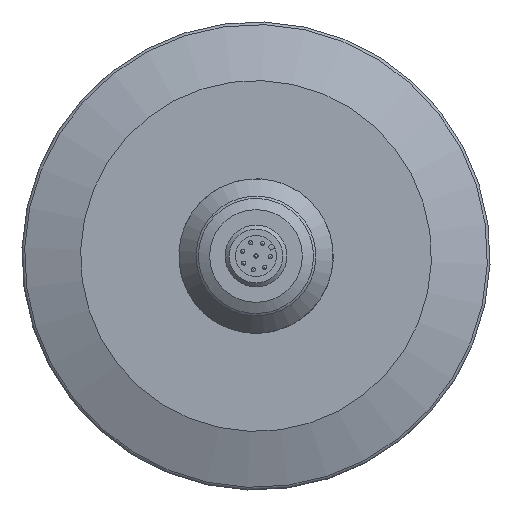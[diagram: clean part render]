
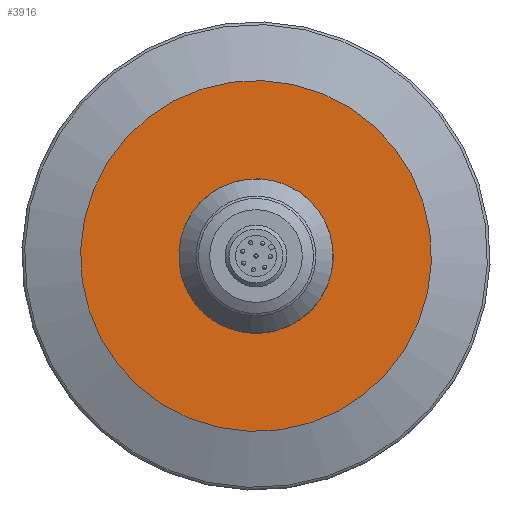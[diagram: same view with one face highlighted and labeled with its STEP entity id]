
A CAD part, front view. The second image highlights one B-rep face of the part: STEP entity #3916.
In plain terms, the highlighted planar face has unit normal (0, -1, 0).
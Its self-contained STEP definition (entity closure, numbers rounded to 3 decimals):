
#571=PLANE('',#4084);
#1327=ORIENTED_EDGE('',*,*,#1701,.F.);
#1328=ORIENTED_EDGE('',*,*,#1713,.F.);
#1701=EDGE_CURVE('',#1965,#1965,#2033,.T.);
#1713=EDGE_CURVE('',#1977,#1977,#2045,.T.);
#1965=VERTEX_POINT('',#9061);
#1977=VERTEX_POINT('',#9096);
#2033=CIRCLE('',#4060,15.);
#2045=CIRCLE('',#4083,34.098);
#2267=EDGE_LOOP('',(#1327));
#2268=EDGE_LOOP('',(#1328));
#2504=FACE_BOUND('',#2267,.T.);
#2505=FACE_BOUND('',#2268,.T.);
#3916=ADVANCED_FACE('',(#2504,#2505),#571,.T.);
#4060=AXIS2_PLACEMENT_3D('',#9060,#4488,#4489);
#4083=AXIS2_PLACEMENT_3D('',#9095,#4534,#4535);
#4084=AXIS2_PLACEMENT_3D('',#9097,#4536,#4537);
#4488=DIRECTION('',(0.,-1.,0.));
#4489=DIRECTION('',(0.,0.,-1.));
#4534=DIRECTION('',(0.,1.,0.));
#4535=DIRECTION('',(0.99,0.,0.138));
#4536=DIRECTION('',(0.,-1.,0.));
#4537=DIRECTION('',(-0.99,0.,-0.138));
#9060=CARTESIAN_POINT('',(0.,-2.005,0.));
#9061=CARTESIAN_POINT('',(0.,-2.005,-15.));
#9095=CARTESIAN_POINT('',(0.,-2.005,0.));
#9096=CARTESIAN_POINT('',(33.772,-2.005,4.703));
#9097=CARTESIAN_POINT('',(16.954,-2.005,2.361));
